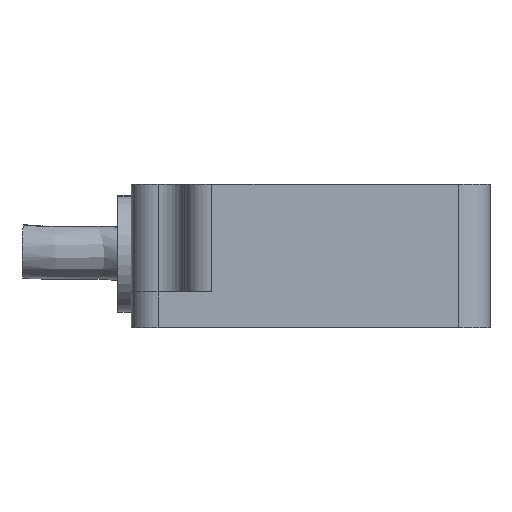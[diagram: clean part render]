
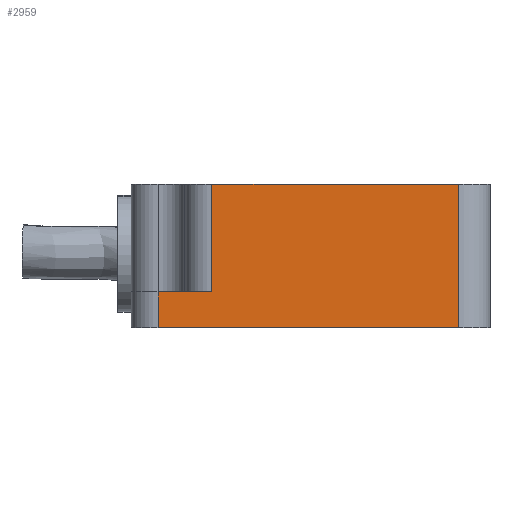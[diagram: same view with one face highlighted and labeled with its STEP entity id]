
A CAD part, front view. The second image highlights one B-rep face of the part: STEP entity #2959.
In plain terms, the highlighted planar face has unit normal (0, -1, 0).
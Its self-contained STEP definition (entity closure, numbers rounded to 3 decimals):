
#10 = CARTESIAN_POINT ( 'NONE',  ( -20.096, -17.708, 32. ) ) ;
#168 = CARTESIAN_POINT ( 'NONE',  ( -20.096, -17.708, 36. ) ) ;
#311 = AXIS2_PLACEMENT_3D ( 'NONE', #5860, #6624, #8282 ) ;
#722 = LINE ( 'NONE', #8092, #8079 ) ;
#887 = EDGE_CURVE ( 'NONE', #10009, #4450, #7372, .T. ) ;
#1460 = ORIENTED_EDGE ( 'NONE', *, *, #7878, .F. ) ;
#1671 = CARTESIAN_POINT ( 'NONE',  ( -20.096, -17.708, 36. ) ) ;
#1676 = EDGE_LOOP ( 'NONE', ( #8208, #7266, #1460, #6058, #6446, #10145 ) ) ;
#1681 = LINE ( 'NONE', #1904, #7732 ) ;
#1904 = CARTESIAN_POINT ( 'NONE',  ( 13.404, -17.708, 48. ) ) ;
#1928 = DIRECTION ( 'NONE',  ( 0., 0., -1. ) ) ;
#2490 = VECTOR ( 'NONE', #5300, 1000. ) ;
#2692 = EDGE_CURVE ( 'NONE', #9099, #4450, #1681, .T. ) ;
#2959 = ADVANCED_FACE ( 'NONE', ( #6309 ), #5923, .F. ) ;
#3703 = LINE ( 'NONE', #1671, #7290 ) ;
#3772 = CARTESIAN_POINT ( 'NONE',  ( -14.096, -17.708, 48. ) ) ;
#3910 = VERTEX_POINT ( 'NONE', #168 ) ;
#4022 = CARTESIAN_POINT ( 'NONE',  ( -14.096, -17.708, 36. ) ) ;
#4405 = CARTESIAN_POINT ( 'NONE',  ( -14.096, -17.708, 48. ) ) ;
#4450 = VERTEX_POINT ( 'NONE', #10627 ) ;
#4660 = EDGE_CURVE ( 'NONE', #3910, #10009, #3703, .T. ) ;
#4910 = DIRECTION ( 'NONE',  ( 1., 0., 0. ) ) ;
#5222 = VERTEX_POINT ( 'NONE', #4405 ) ;
#5300 = DIRECTION ( 'NONE',  ( 1., 0., 0. ) ) ;
#5341 = CARTESIAN_POINT ( 'NONE',  ( -3.096, -17.708, 32. ) ) ;
#5465 = CARTESIAN_POINT ( 'NONE',  ( 13.404, -17.708, 48. ) ) ;
#5510 = DIRECTION ( 'NONE',  ( -1., 0., 0. ) ) ;
#5860 = CARTESIAN_POINT ( 'NONE',  ( -3.096, -17.708, 48. ) ) ;
#5923 = PLANE ( 'NONE',  #311 ) ;
#6058 = ORIENTED_EDGE ( 'NONE', *, *, #8553, .T. ) ;
#6309 = FACE_OUTER_BOUND ( 'NONE', #1676, .T. ) ;
#6446 = ORIENTED_EDGE ( 'NONE', *, *, #9574, .T. ) ;
#6559 = VERTEX_POINT ( 'NONE', #4022 ) ;
#6624 = DIRECTION ( 'NONE',  ( 0., 1., 0. ) ) ;
#7266 = ORIENTED_EDGE ( 'NONE', *, *, #2692, .F. ) ;
#7290 = VECTOR ( 'NONE', #1928, 1000. ) ;
#7372 = LINE ( 'NONE', #5341, #2490 ) ;
#7527 = DIRECTION ( 'NONE',  ( 0., 0., -1. ) ) ;
#7732 = VECTOR ( 'NONE', #7527, 1000. ) ;
#7878 = EDGE_CURVE ( 'NONE', #5222, #9099, #722, .T. ) ;
#8079 = VECTOR ( 'NONE', #4910, 1000. ) ;
#8092 = CARTESIAN_POINT ( 'NONE',  ( -3.096, -17.708, 48. ) ) ;
#8208 = ORIENTED_EDGE ( 'NONE', *, *, #887, .T. ) ;
#8282 = DIRECTION ( 'NONE',  ( 0., 0., 1. ) ) ;
#8358 = VECTOR ( 'NONE', #5510, 1000. ) ;
#8419 = LINE ( 'NONE', #3772, #10363 ) ;
#8553 = EDGE_CURVE ( 'NONE', #5222, #6559, #8419, .T. ) ;
#8682 = DIRECTION ( 'NONE',  ( 0., 0., -1. ) ) ;
#9099 = VERTEX_POINT ( 'NONE', #5465 ) ;
#9132 = LINE ( 'NONE', #10421, #8358 ) ;
#9574 = EDGE_CURVE ( 'NONE', #6559, #3910, #9132, .T. ) ;
#10009 = VERTEX_POINT ( 'NONE', #10 ) ;
#10145 = ORIENTED_EDGE ( 'NONE', *, *, #4660, .T. ) ;
#10363 = VECTOR ( 'NONE', #8682, 1000. ) ;
#10421 = CARTESIAN_POINT ( 'NONE',  ( -14.096, -17.708, 36. ) ) ;
#10627 = CARTESIAN_POINT ( 'NONE',  ( 13.404, -17.708, 32. ) ) ;
